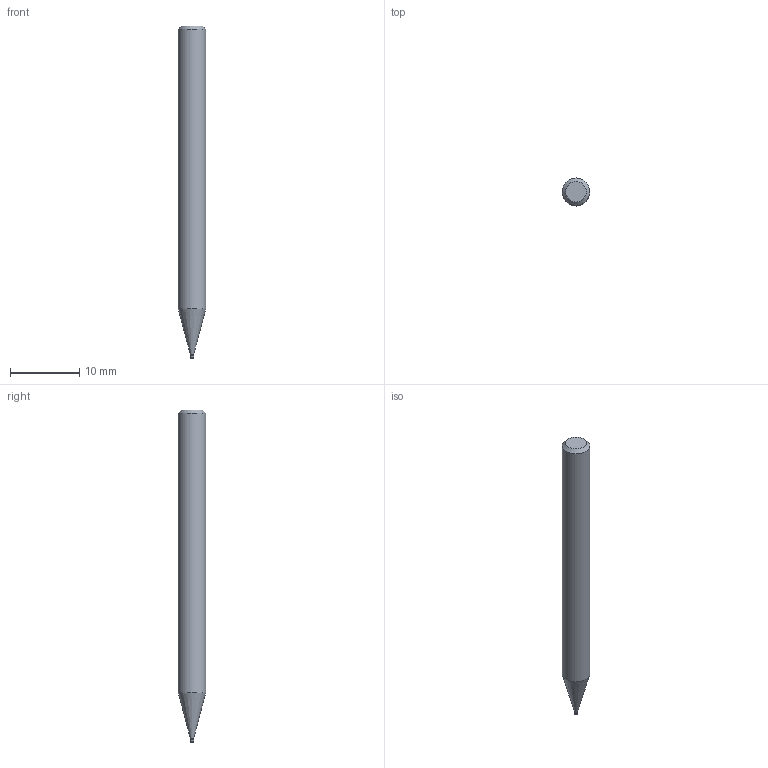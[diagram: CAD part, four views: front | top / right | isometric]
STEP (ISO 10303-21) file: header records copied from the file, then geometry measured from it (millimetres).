
FILE_DESCRIPTION((''),'2;1');
FILE_NAME('C:\Users\nsx150\AppData\Local\Temp\Mastercam 2021\LJSIDMOTM8\TEMP.step','2021-08-03T13:48:39',(''),(''),'STEP Write','Mastercam 2021 ... CNC Software, Inc.','');
FILE_SCHEMA(('AUTOMOTIVE_DESIGN'));
Length unit declared in the file: millimetre
Products named in the file (1): None
Bounding box: 4 x 4 x 48 mm (x, y, z)
Volume: 543.8 mm3; surface area: 571.7 mm2
Topology: 2 solids, 2 shells, 10 faces, 14 edges, 8 vertices
Faces by surface type: plane 4, cylinder 3, cone 2, torus 1
Full cylindrical faces by diameter (mm): 0.46 x1, 0.5 x1, 4 x1
Entity records: 232 total; most frequent: DIRECTION 40, CARTESIAN_POINT 28, AXIS2_PLACEMENT_3D 20, ORIENTED_EDGE 16, EDGE_LOOP 16, STYLED_ITEM 13, ADVANCED_FACE 10, FACE_BOUND 10
